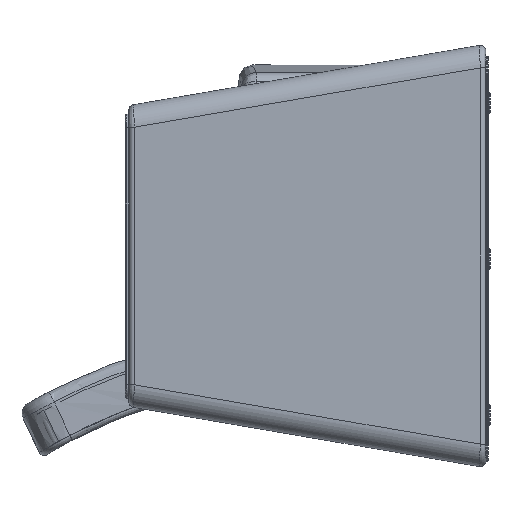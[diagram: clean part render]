
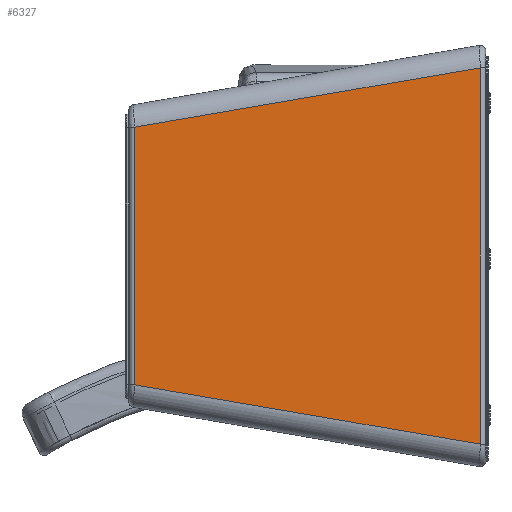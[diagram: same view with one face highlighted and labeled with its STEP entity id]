
A CAD part, left-side view. The second image highlights one B-rep face of the part: STEP entity #6327.
In plain terms, the highlighted planar face has unit normal (-1, 0, 0).
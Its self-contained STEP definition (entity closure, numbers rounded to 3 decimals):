
#443=PLANE('',#7101);
#803=LINE('',#16459,#1204);
#806=LINE('',#17511,#1207);
#809=LINE('',#18057,#1210);
#810=LINE('',#18059,#1211);
#1204=VECTOR('',#8845,1000.);
#1207=VECTOR('',#8862,1000.);
#1210=VECTOR('',#8873,1000.);
#1211=VECTOR('',#8876,1000.);
#1765=FACE_OUTER_BOUND('',#2269,.T.);
#2269=EDGE_LOOP('',(#5657,#5658,#5659,#5660));
#3184=VERTEX_POINT('',#15882);
#3189=VERTEX_POINT('',#16457);
#3193=VERTEX_POINT('',#17018);
#3198=VERTEX_POINT('',#17509);
#4016=EDGE_CURVE('',#3184,#3189,#803,.T.);
#4032=EDGE_CURVE('',#3193,#3198,#806,.T.);
#4041=EDGE_CURVE('',#3198,#3184,#809,.T.);
#4042=EDGE_CURVE('',#3189,#3193,#810,.T.);
#5657=ORIENTED_EDGE('',*,*,#4042,.T.);
#5658=ORIENTED_EDGE('',*,*,#4032,.T.);
#5659=ORIENTED_EDGE('',*,*,#4041,.T.);
#5660=ORIENTED_EDGE('',*,*,#4016,.T.);
#6327=ADVANCED_FACE('',(#1765),#443,.T.);
#7101=AXIS2_PLACEMENT_3D('',#18060,#8877,#8878);
#8845=DIRECTION('',(0.,0.,-1.));
#8862=DIRECTION('',(0.,0.,1.));
#8873=DIRECTION('',(0.,0.986,-0.169));
#8876=DIRECTION('',(0.,-0.986,-0.169));
#8877=DIRECTION('center_axis',(-1.,0.,0.));
#8878=DIRECTION('ref_axis',(0.,0.,1.));
#15882=CARTESIAN_POINT('',(-680.,639.,235.502));
#16457=CARTESIAN_POINT('',(-680.,639.,-226.944));
#16459=CARTESIAN_POINT('',(-680.,639.,0.));
#17018=CARTESIAN_POINT('',(-680.,18.,-333.512));
#17509=CARTESIAN_POINT('',(-680.,18.,342.07));
#17511=CARTESIAN_POINT('',(-680.,18.,0.));
#18057=CARTESIAN_POINT('',(-680.,642.235,234.947));
#18059=CARTESIAN_POINT('',(-680.,56.111,-326.972));
#18060=CARTESIAN_POINT('Origin',(-680.,0.,0.));
